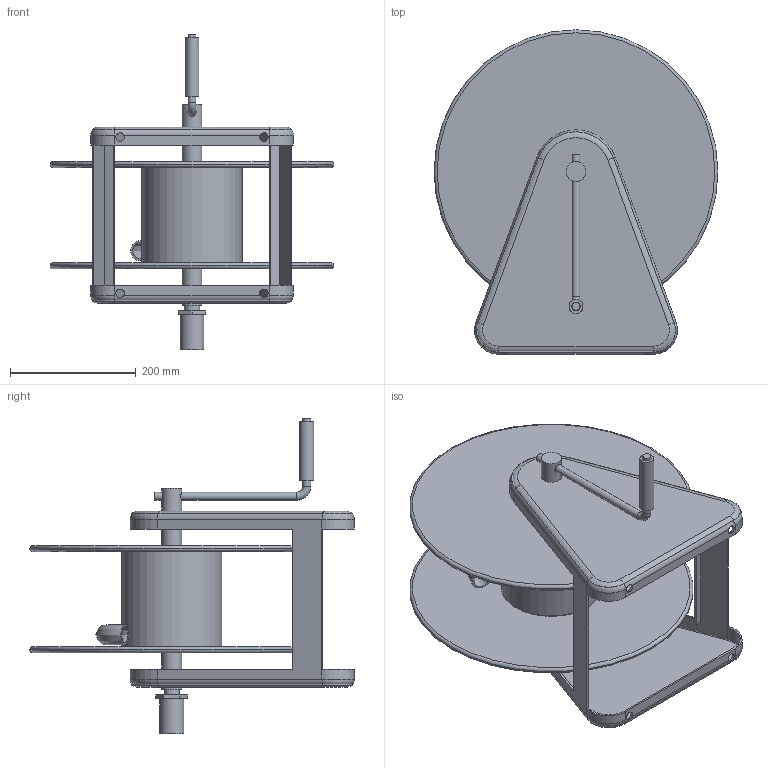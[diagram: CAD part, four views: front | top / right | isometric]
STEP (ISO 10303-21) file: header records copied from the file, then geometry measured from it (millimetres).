
FILE_DESCRIPTION( ( 'Unknown' ), '1' );
FILE_NAME( 'C:/Documents and Settings/jlb/Desktop/CA3X106 X.stp', 'Unknown', ( 'Unknown' ), ( 'Unknown' ), 'PSStep 10.1', 'Unknown', ' ' );
FILE_SCHEMA( ( 'AUTOMOTIVE_DESIGN { 1 0 10303 214 1 1 1 1 }' ) );
Length unit declared in the file: millimetre
Products named in the file (5): 1; 2; 3; 4; 5
Bounding box: 450.85 x 515.14 x 500.89 mm (x, y, z)
Volume: 4088780.5 mm3; surface area: 1354589.4 mm2
Topology: 5 solids, 5 shells, 108 faces, 247 edges, 157 vertices
Faces by surface type: plane 56, cylinder 38, torus 11, bspline 3
Full cylindrical faces by diameter (mm): 12.7 x3, 13.081 x1, 13.487 x5, 22.225 x1, 24.618 x1, 25.4 x1, 31.75 x5, 38.1 x1, 156.388 x1, 159.385 x1
Entity records: 4957 total; most frequent: CARTESIAN_POINT 1668, DIRECTION 512, ORIENTED_EDGE 420, EDGE_CURVE 210, AXIS2_PLACEMENT_3D 200, EDGE_LOOP 160, VERTEX_POINT 148, FACE_OUTER_BOUND 136
